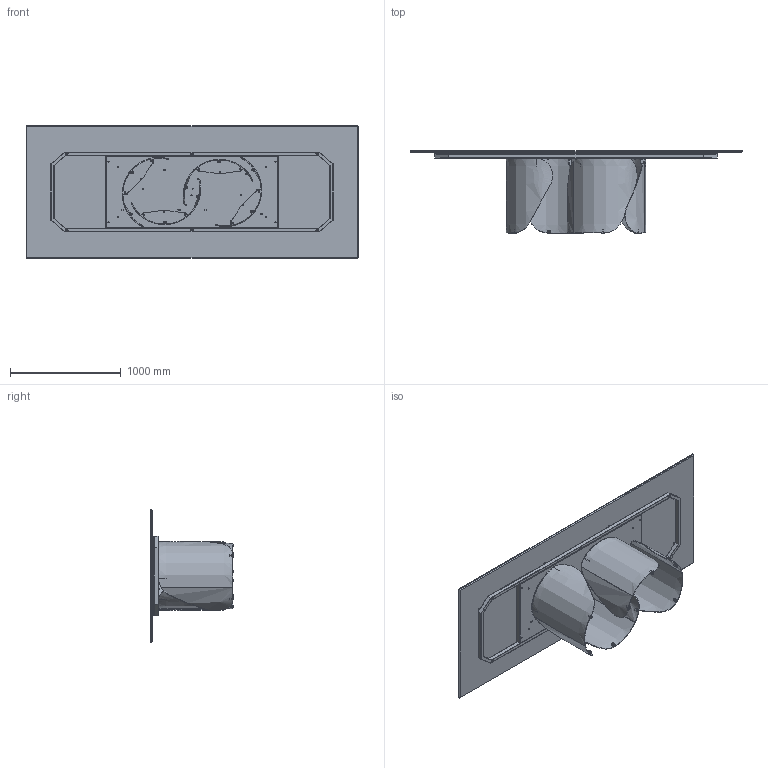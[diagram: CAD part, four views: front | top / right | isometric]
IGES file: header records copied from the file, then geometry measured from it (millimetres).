
Start section: SolidWorks IGES file using analytic representation for surfaces
Global section: file name: Y:\eforma\TECNICO\SOLIDWORKS\E-FORMA\1-TAVOLI\ONDA\02 parts\ON24C.IGS; native system: SolidWorks 2022; preprocessor: SolidWorks 2022; author: eforma.tech; date: 240806.154243; units: millimetre
Bounding box: 3000 x 742 x 1200 mm (x, y, z)
Volume: 74947800.6 mm3; surface area: 23099379.3 mm2
Topology: 84 solids, 84 shells, 1934 faces, 4428 edges, 2696 vertices
Faces by surface type: revolution 1124, plane 730, bspline 80
